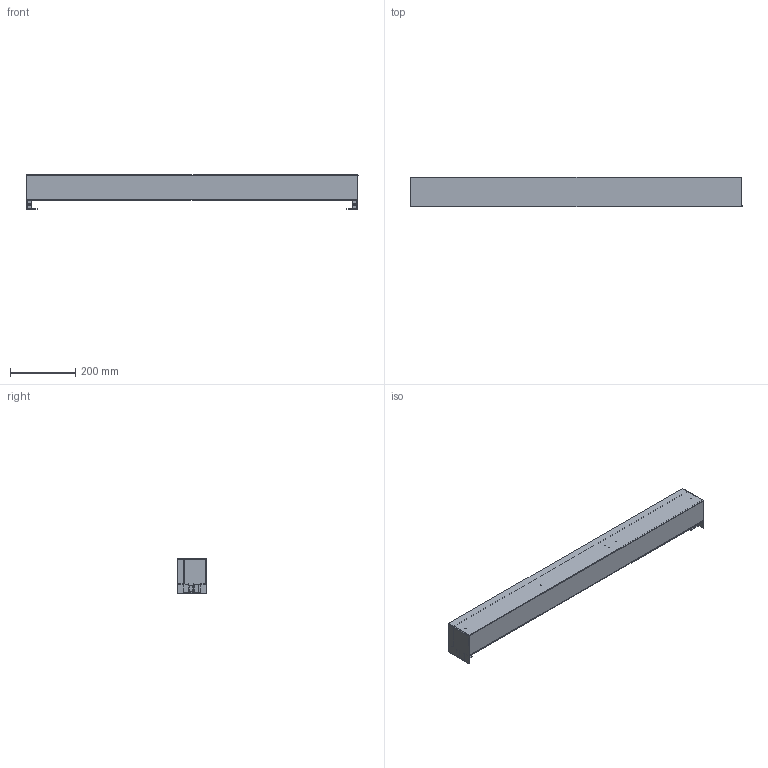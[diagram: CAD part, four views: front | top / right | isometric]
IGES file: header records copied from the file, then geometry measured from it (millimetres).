
Start section: SolidWorks IGES file using analytic representation for surfaces
Global section: file name: C:\Users\tungari.NEMOLIGHTING\Desktop\3D\WALL\3D_VIIVA_100000\DEF\3D_VIIVA_100.IGS; native system: SolidWorks 2016; preprocessor: SolidWorks 2016; author: tungari; date: 180314.164403; units: millimetre
Bounding box: 1015 x 90 x 105.5 mm (x, y, z)
Surface area: 736099.9 mm2 (no closed solid volume)
Topology: 0 solids, 0 shells, 318 faces, 3332 edges, 3332 vertices
Faces by surface type: bspline 198, revolution 120
